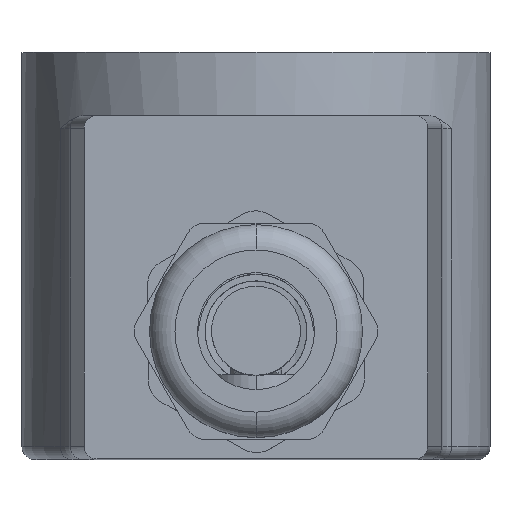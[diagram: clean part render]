
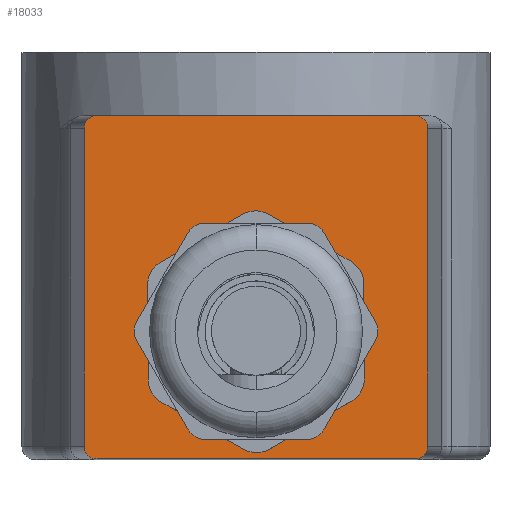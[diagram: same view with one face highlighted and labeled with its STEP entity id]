
A CAD part, top view. The second image highlights one B-rep face of the part: STEP entity #18033.
In plain terms, the highlighted planar face has unit normal (0, 0, 1).
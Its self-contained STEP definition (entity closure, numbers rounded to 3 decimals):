
#270 = ORIENTED_EDGE ( 'NONE', *, *, #7756, .F. ) ;
#307 = CARTESIAN_POINT ( 'NONE',  ( 12.496, 27., 25. ) ) ;
#468 = CIRCLE ( 'NONE', #4928, 6. ) ;
#596 = CARTESIAN_POINT ( 'NONE',  ( 12.496, 27., 25. ) ) ;
#841 = VERTEX_POINT ( 'NONE', #1608 ) ;
#855 = VECTOR ( 'NONE', #16247, 1000. ) ;
#1024 = DIRECTION ( 'NONE',  ( 0., 0., 1. ) ) ;
#1025 = CARTESIAN_POINT ( 'NONE',  ( -13.084, 27., 25. ) ) ;
#1210 = ORIENTED_EDGE ( 'NONE', *, *, #14199, .F. ) ;
#1286 = CARTESIAN_POINT ( 'NONE',  ( 0., 10., 25. ) ) ;
#1318 = CARTESIAN_POINT ( 'NONE',  ( -13.5, 0., 25. ) ) ;
#1370 = CARTESIAN_POINT ( 'NONE',  ( -13.5, 26., 25. ) ) ;
#1608 = CARTESIAN_POINT ( 'NONE',  ( 12.496, 0., 25. ) ) ;
#1921 = VECTOR ( 'NONE', #10486, 1000. ) ;
#2121 = CARTESIAN_POINT ( 'NONE',  ( -13.5, 1., 25. ) ) ;
#2320 = CARTESIAN_POINT ( 'NONE',  ( -13.5, 0.414, 25. ) ) ;
#2335 =( BOUNDED_CURVE ( )  B_SPLINE_CURVE ( 3, ( #18837, #9677, #17231, #596 ),
 .UNSPECIFIED., .F., .F. ) 
 B_SPLINE_CURVE_WITH_KNOTS ( ( 4, 4 ),
 ( 0., 1.571 ),
 .UNSPECIFIED. ) 
 CURVE ( )  GEOMETRIC_REPRESENTATION_ITEM ( )  RATIONAL_B_SPLINE_CURVE ( ( 1., 0.805, 0.805, 1. ) ) 
 REPRESENTATION_ITEM ( '' )  );
#2521 = VERTEX_POINT ( 'NONE', #5830 ) ;
#2623 = CARTESIAN_POINT ( 'NONE',  ( -13.5, 27., 25. ) ) ;
#2763 = VERTEX_POINT ( 'NONE', #3383 ) ;
#2791 = DIRECTION ( 'NONE',  ( 1., 0., 0. ) ) ;
#2881 = DIRECTION ( 'NONE',  ( 1., 0., 0. ) ) ;
#3085 = LINE ( 'NONE', #10708, #6418 ) ;
#3359 = VERTEX_POINT ( 'NONE', #9104 ) ;
#3383 = CARTESIAN_POINT ( 'NONE',  ( 13.5, 26., 25. ) ) ;
#4093 = VERTEX_POINT ( 'NONE', #19116 ) ;
#4527 = VERTEX_POINT ( 'NONE', #1370 ) ;
#4928 = AXIS2_PLACEMENT_3D ( 'NONE', #1286, #1024, #2791 ) ;
#5071 = CARTESIAN_POINT ( 'NONE',  ( 12.496, 0., 25. ) ) ;
#5132 =( BOUNDED_CURVE ( )  B_SPLINE_CURVE ( 3, ( #5071, #14244, #6803, #15838 ),
 .UNSPECIFIED., .F., .F. ) 
 B_SPLINE_CURVE_WITH_KNOTS ( ( 4, 4 ),
 ( 1.571, 3.142 ),
 .UNSPECIFIED. ) 
 CURVE ( )  GEOMETRIC_REPRESENTATION_ITEM ( )  RATIONAL_B_SPLINE_CURVE ( ( 1., 0.805, 0.805, 1. ) ) 
 REPRESENTATION_ITEM ( '' )  );
#5466 = CARTESIAN_POINT ( 'NONE',  ( 13.5, 27., 25. ) ) ;
#5604 = CARTESIAN_POINT ( 'NONE',  ( 0., 10., 25. ) ) ;
#5646 = VERTEX_POINT ( 'NONE', #6262 ) ;
#5830 = CARTESIAN_POINT ( 'NONE',  ( -12.496, 0., 25. ) ) ;
#6174 = VERTEX_POINT ( 'NONE', #307 ) ;
#6190 = LINE ( 'NONE', #9869, #19409 ) ;
#6201 = FACE_OUTER_BOUND ( 'NONE', #11549, .T. ) ;
#6262 = CARTESIAN_POINT ( 'NONE',  ( -6., 10., 25. ) ) ;
#6316 = AXIS2_PLACEMENT_3D ( 'NONE', #2623, #17699, #2881 ) ;
#6418 = VECTOR ( 'NONE', #16763, 1000. ) ;
#6803 = CARTESIAN_POINT ( 'NONE',  ( 13.5, 0.414, 25. ) ) ;
#7150 = CIRCLE ( 'NONE', #10956, 6. ) ;
#7285 = CARTESIAN_POINT ( 'NONE',  ( -13.5, 26., 25. ) ) ;
#7409 = EDGE_CURVE ( 'NONE', #841, #8883, #5132, .T. ) ;
#7756 = EDGE_CURVE ( 'NONE', #841, #2521, #10726, .T. ) ;
#7910 = CARTESIAN_POINT ( 'NONE',  ( 13.5, 1., 25. ) ) ;
#8070 = VERTEX_POINT ( 'NONE', #12603 ) ;
#8176 = DIRECTION ( 'NONE',  ( 0., -1., 0. ) ) ;
#8630 = DIRECTION ( 'NONE',  ( 1., 0., 0. ) ) ;
#8883 = VERTEX_POINT ( 'NONE', #7910 ) ;
#8945 = ORIENTED_EDGE ( 'NONE', *, *, #8956, .T. ) ;
#8956 = EDGE_CURVE ( 'NONE', #4527, #3359, #6190, .T. ) ;
#9062 = ORIENTED_EDGE ( 'NONE', *, *, #12414, .T. ) ;
#9104 = CARTESIAN_POINT ( 'NONE',  ( -13.5, 1., 25. ) ) ;
#9308 = ORIENTED_EDGE ( 'NONE', *, *, #13037, .F. ) ;
#9677 = CARTESIAN_POINT ( 'NONE',  ( 13.5, 26.586, 25. ) ) ;
#9869 = CARTESIAN_POINT ( 'NONE',  ( -13.5, 27., 25. ) ) ;
#10079 = ORIENTED_EDGE ( 'NONE', *, *, #18865, .T. ) ;
#10486 = DIRECTION ( 'NONE',  ( 0., -1., 0. ) ) ;
#10708 = CARTESIAN_POINT ( 'NONE',  ( -13.5, 27., 25. ) ) ;
#10726 = LINE ( 'NONE', #1318, #855 ) ;
#10956 = AXIS2_PLACEMENT_3D ( 'NONE', #5604, #19308, #8630 ) ;
#11138 = FACE_BOUND ( 'NONE', #11236, .T. ) ;
#11236 = EDGE_LOOP ( 'NONE', ( #12373, #9308 ) ) ;
#11270 =( BOUNDED_CURVE ( )  B_SPLINE_CURVE ( 3, ( #19208, #1025, #13221, #7285 ),
 .UNSPECIFIED., .F., .F. ) 
 B_SPLINE_CURVE_WITH_KNOTS ( ( 4, 4 ),
 ( 1.571, 3.142 ),
 .UNSPECIFIED. ) 
 CURVE ( )  GEOMETRIC_REPRESENTATION_ITEM ( )  RATIONAL_B_SPLINE_CURVE ( ( 1., 0.805, 0.805, 1. ) ) 
 REPRESENTATION_ITEM ( '' )  );
#11365 = ORIENTED_EDGE ( 'NONE', *, *, #16625, .T. ) ;
#11549 = EDGE_LOOP ( 'NONE', ( #8945, #10079, #270, #13482, #1210, #9062, #15165, #11365 ) ) ;
#11706 = PLANE ( 'NONE',  #6316 ) ;
#12296 = EDGE_CURVE ( 'NONE', #6174, #8070, #3085, .T. ) ;
#12373 = ORIENTED_EDGE ( 'NONE', *, *, #17980, .F. ) ;
#12414 = EDGE_CURVE ( 'NONE', #2763, #6174, #2335, .T. ) ;
#12603 = CARTESIAN_POINT ( 'NONE',  ( -12.496, 27., 25. ) ) ;
#12964 = LINE ( 'NONE', #5466, #1921 ) ;
#13037 = EDGE_CURVE ( 'NONE', #5646, #4093, #468, .T. ) ;
#13221 = CARTESIAN_POINT ( 'NONE',  ( -13.5, 26.586, 25. ) ) ;
#13482 = ORIENTED_EDGE ( 'NONE', *, *, #7409, .T. ) ;
#14132 = CARTESIAN_POINT ( 'NONE',  ( -12.496, 0., 25. ) ) ;
#14199 = EDGE_CURVE ( 'NONE', #2763, #8883, #12964, .T. ) ;
#14244 = CARTESIAN_POINT ( 'NONE',  ( 13.084, 0., 25. ) ) ;
#14406 = CARTESIAN_POINT ( 'NONE',  ( -13.084, 0., 25. ) ) ;
#15165 = ORIENTED_EDGE ( 'NONE', *, *, #12296, .T. ) ;
#15838 = CARTESIAN_POINT ( 'NONE',  ( 13.5, 1., 25. ) ) ;
#16247 = DIRECTION ( 'NONE',  ( -1., 0., 0. ) ) ;
#16625 = EDGE_CURVE ( 'NONE', #8070, #4527, #11270, .T. ) ;
#16763 = DIRECTION ( 'NONE',  ( -1., 0., 0. ) ) ;
#17231 = CARTESIAN_POINT ( 'NONE',  ( 13.084, 27., 25. ) ) ;
#17699 = DIRECTION ( 'NONE',  ( 0., 0., 1. ) ) ;
#17980 = EDGE_CURVE ( 'NONE', #4093, #5646, #7150, .T. ) ;
#18033 = ADVANCED_FACE ( 'NONE', ( #11138, #6201 ), #11706, .T. ) ;
#18163 =( BOUNDED_CURVE ( )  B_SPLINE_CURVE ( 3, ( #2121, #2320, #14406, #14132 ),
 .UNSPECIFIED., .F., .T. ) 
 B_SPLINE_CURVE_WITH_KNOTS ( ( 4, 4 ),
 ( 0., 1.571 ),
 .UNSPECIFIED. ) 
 CURVE ( )  GEOMETRIC_REPRESENTATION_ITEM ( )  RATIONAL_B_SPLINE_CURVE ( ( 1., 0.805, 0.805, 1. ) ) 
 REPRESENTATION_ITEM ( '' )  );
#18837 = CARTESIAN_POINT ( 'NONE',  ( 13.5, 26., 25. ) ) ;
#18865 = EDGE_CURVE ( 'NONE', #3359, #2521, #18163, .T. ) ;
#19116 = CARTESIAN_POINT ( 'NONE',  ( 6., 10., 25. ) ) ;
#19208 = CARTESIAN_POINT ( 'NONE',  ( -12.496, 27., 25. ) ) ;
#19308 = DIRECTION ( 'NONE',  ( 0., 0., 1. ) ) ;
#19409 = VECTOR ( 'NONE', #8176, 1000. ) ;
